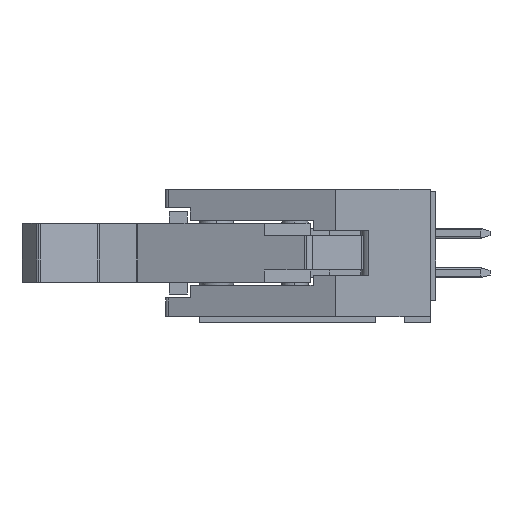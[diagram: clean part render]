
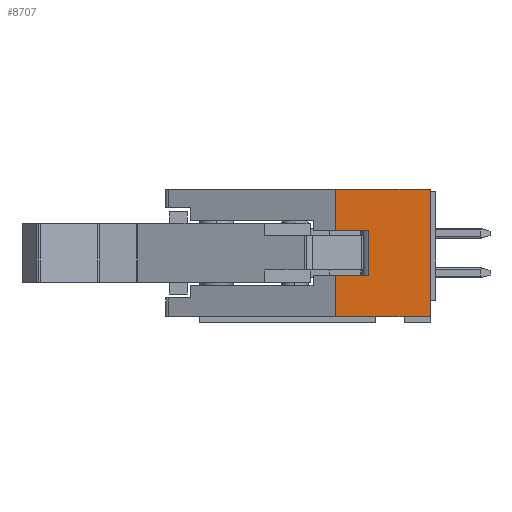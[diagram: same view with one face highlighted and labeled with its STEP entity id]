
A CAD part, left-side view. The second image highlights one B-rep face of the part: STEP entity #8707.
In plain terms, the highlighted planar face has unit normal (-1, 0, 0).
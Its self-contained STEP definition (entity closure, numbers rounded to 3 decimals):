
#1678 = VECTOR ( 'NONE', #24675, 1000. ) ;
#2065 = VECTOR ( 'NONE', #28351, 1000. ) ;
#2157 = VECTOR ( 'NONE', #28510, 1000. ) ;
#2160 = VECTOR ( 'NONE', #28503, 1000. ) ;
#2161 = VECTOR ( 'NONE', #28507, 1000. ) ;
#2162 = VECTOR ( 'NONE', #28513, 1000. ) ;
#2165 = VECTOR ( 'NONE', #28516, 1000. ) ;
#2166 = VECTOR ( 'NONE', #28519, 1000. ) ;
#8707 = ADVANCED_FACE ( 'NONE', ( #27864 ), #27849, .F. ) ;
#10288 = VERTEX_POINT ( 'NONE', #26712 ) ;
#10309 = VERTEX_POINT ( 'NONE', #26719 ) ;
#18708 = EDGE_LOOP ( 'NONE', ( #22159, #22158, #22157, #22156, #22155, #22154, #22153, #22152 ) ) ;
#19488 = CARTESIAN_POINT ( 'NONE',  ( -23.72, -9.26, 4.3 ) ) ;
#19533 = CARTESIAN_POINT ( 'NONE',  ( -23.72, -9.26, 1.625 ) ) ;
#19538 = CARTESIAN_POINT ( 'NONE',  ( -23.72, -11.41, 1.625 ) ) ;
#22152 = ORIENTED_EDGE ( 'NONE', *, *, #24001, .F. ) ;
#22153 = ORIENTED_EDGE ( 'NONE', *, *, #24000, .F. ) ;
#22154 = ORIENTED_EDGE ( 'NONE', *, *, #23999, .F. ) ;
#22155 = ORIENTED_EDGE ( 'NONE', *, *, #23998, .F. ) ;
#22156 = ORIENTED_EDGE ( 'NONE', *, *, #23997, .F. ) ;
#22157 = ORIENTED_EDGE ( 'NONE', *, *, #23946, .F. ) ;
#22158 = ORIENTED_EDGE ( 'NONE', *, *, #22657, .F. ) ;
#22159 = ORIENTED_EDGE ( 'NONE', *, *, #23996, .F. ) ;
#22232 = VERTEX_POINT ( 'NONE', #19488 ) ;
#22273 = VERTEX_POINT ( 'NONE', #19533 ) ;
#22278 = VERTEX_POINT ( 'NONE', #19538 ) ;
#22657 = EDGE_CURVE ( 'NONE', #10288, #10309, #24673, .T. ) ;
#23480 = VERTEX_POINT ( 'NONE', #25229 ) ;
#23503 = VERTEX_POINT ( 'NONE', #25244 ) ;
#23549 = VERTEX_POINT ( 'NONE', #25261 ) ;
#23946 = EDGE_CURVE ( 'NONE', #22232, #10288, #28349, .T. ) ;
#23996 = EDGE_CURVE ( 'NONE', #10309, #23549, #28501, .T. ) ;
#23997 = EDGE_CURVE ( 'NONE', #22273, #22232, #28504, .T. ) ;
#23998 = EDGE_CURVE ( 'NONE', #22278, #22273, #28488, .T. ) ;
#23999 = EDGE_CURVE ( 'NONE', #23480, #22278, #28493, .T. ) ;
#24000 = EDGE_CURVE ( 'NONE', #23503, #23480, #28514, .T. ) ;
#24001 = EDGE_CURVE ( 'NONE', #23549, #23503, #28517, .T. ) ;
#24673 = LINE ( 'NONE', #24674, #1678 ) ;
#24674 = CARTESIAN_POINT ( 'NONE',  ( -23.72, -15.36, 4.3 ) ) ;
#24675 = DIRECTION ( 'NONE',  ( 0., 0., -1. ) ) ;
#25229 = CARTESIAN_POINT ( 'NONE',  ( -23.72, -11.41, -1.225 ) ) ;
#25244 = CARTESIAN_POINT ( 'NONE',  ( -23.72, -9.26, -1.225 ) ) ;
#25261 = CARTESIAN_POINT ( 'NONE',  ( -23.72, -9.26, -3.9 ) ) ;
#25381 = AXIS2_PLACEMENT_3D ( 'NONE', #27874, #27875, #27876 ) ;
#26712 = CARTESIAN_POINT ( 'NONE',  ( -23.72, -15.36, 4.3 ) ) ;
#26719 = CARTESIAN_POINT ( 'NONE',  ( -23.72, -15.36, -3.9 ) ) ;
#27849 = PLANE ( 'NONE',  #25381 ) ;
#27864 = FACE_OUTER_BOUND ( 'NONE', #18708, .T. ) ;
#27874 = CARTESIAN_POINT ( 'NONE',  ( -23.72, -15.36, -3.9 ) ) ;
#27875 = DIRECTION ( 'NONE',  ( 1., 0., 0. ) ) ;
#27876 = DIRECTION ( 'NONE',  ( 0., 0., -1. ) ) ;
#28349 = LINE ( 'NONE', #28350, #2065 ) ;
#28350 = CARTESIAN_POINT ( 'NONE',  ( -23.72, -15.36, 4.3 ) ) ;
#28351 = DIRECTION ( 'NONE',  ( 0., -1., 0. ) ) ;
#28488 = LINE ( 'NONE', #28508, #2157 ) ;
#28493 = LINE ( 'NONE', #28511, #2162 ) ;
#28501 = LINE ( 'NONE', #28502, #2160 ) ;
#28502 = CARTESIAN_POINT ( 'NONE',  ( -23.72, -15.36, -3.9 ) ) ;
#28503 = DIRECTION ( 'NONE',  ( 0., 1., 0. ) ) ;
#28504 = LINE ( 'NONE', #28506, #2161 ) ;
#28506 = CARTESIAN_POINT ( 'NONE',  ( -23.72, -9.26, -3.9 ) ) ;
#28507 = DIRECTION ( 'NONE',  ( 0., 0., 1. ) ) ;
#28508 = CARTESIAN_POINT ( 'NONE',  ( -23.72, -15.36, 1.625 ) ) ;
#28510 = DIRECTION ( 'NONE',  ( 0., 1., 0. ) ) ;
#28511 = CARTESIAN_POINT ( 'NONE',  ( -23.72, -11.41, -3.9 ) ) ;
#28513 = DIRECTION ( 'NONE',  ( 0., 0., 1. ) ) ;
#28514 = LINE ( 'NONE', #28515, #2165 ) ;
#28515 = CARTESIAN_POINT ( 'NONE',  ( -23.72, -15.36, -1.225 ) ) ;
#28516 = DIRECTION ( 'NONE',  ( 0., -1., 0. ) ) ;
#28517 = LINE ( 'NONE', #28518, #2166 ) ;
#28518 = CARTESIAN_POINT ( 'NONE',  ( -23.72, -9.26, -3.9 ) ) ;
#28519 = DIRECTION ( 'NONE',  ( 0., 0., 1. ) ) ;
